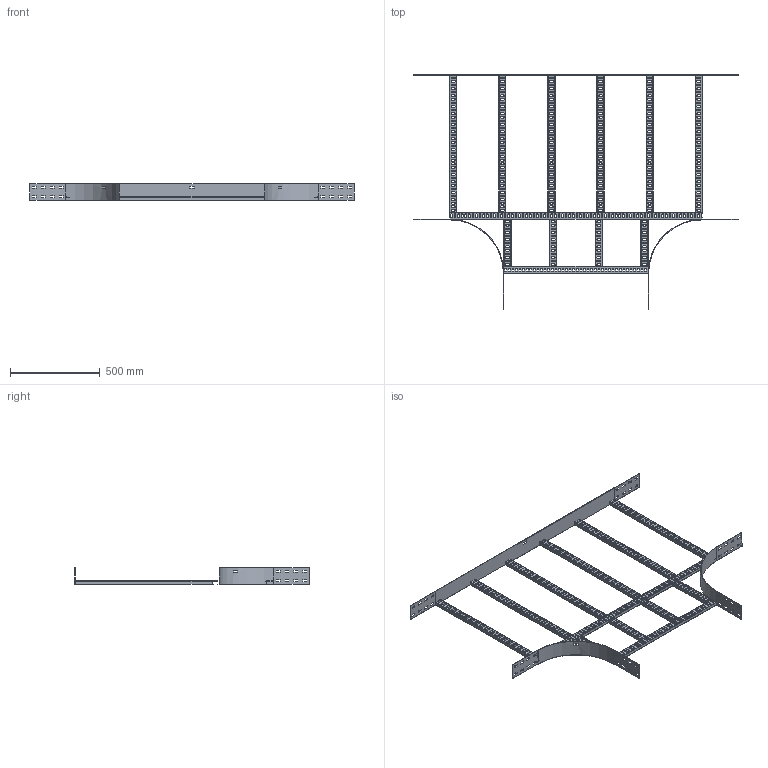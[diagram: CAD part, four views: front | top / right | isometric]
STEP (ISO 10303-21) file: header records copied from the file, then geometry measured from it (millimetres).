
FILE_DESCRIPTION(/* description */ ('','CAx-IF Rec.Pracs.---Representation and Presentation of Product Manufacturing Information (PMI)---4.0---2014-10-13'),/* implementation_level */ '2;1');
FILE_NAME(/* name */ 'Eurostrut_EET100-800-300_T-Piece for Cable Ladder ECL.step',/* time_stamp */ '2026-09-03T15:52:22+02:00',/* author */ (''),/* organization */ (''),/* preprocessor_version */ 'ST-DEVELOPER v20.1',/* originating_system */ 'Autodesk Revit 2027 27.2.0.39',/* authorisation */ '');
FILE_SCHEMA (('AP242_MANAGED_MODEL_BASED_3D_ENGINEERING_MIM_LF { 1 0 10303 442 2 1 4 }'));
Products named in the file (9): TopLevelAssembly; Sweep; Sweep_1; Eurostrut_Cable Ladder_Rung_With slots; Eurostrut_Cable Ladder_Rung_With slots_1; Eurostrut_Cable Ladder_Rung Array Straight_Slotted; Eurostrut_Cable Ladder_Rung Array Straight_Slotted_1; Sweep_2; Eurostrut_Cable Ladder_Accessory End_54-94-142
Assembly tree (13 placements, depth 2):
  TopLevelAssembly
    Sweep
    Sweep_1
    Eurostrut_Cable Ladder_Rung_With slots
    Eurostrut_Cable Ladder_Rung_With slots_1
    Eurostrut_Cable Ladder_Rung Array Straight_Slotted
    Eurostrut_Cable Ladder_Rung Array Straight_Slotted_1
    Sweep_2
    Eurostrut_Cable Ladder_Accessory End_54-94-142  x6
Bounding box: 1811 x 1311 x 94.04 mm (x, y, z)
Volume: 1929485.1 mm3; surface area: 2023761.3 mm2
Topology: 21 solids, 21 shells, 2038 faces, 5988 edges, 3992 vertices
Faces by surface type: plane 1204, bspline 782, cylinder 52
Entity records: 85582 total; most frequent: CARTESIAN_POINT 35128, ORIENTED_EDGE 10896, DIRECTION 9300, EDGE_CURVE 5448, LINE 3772, VECTOR 3772, VERTEX_POINT 3632, AXIS2_PLACEMENT_3D 2764
